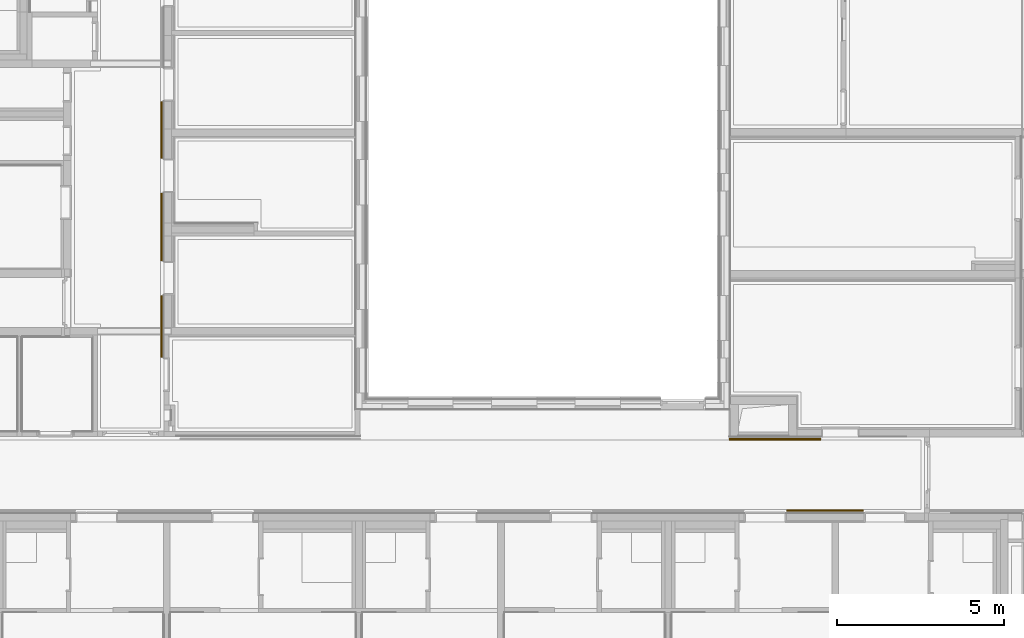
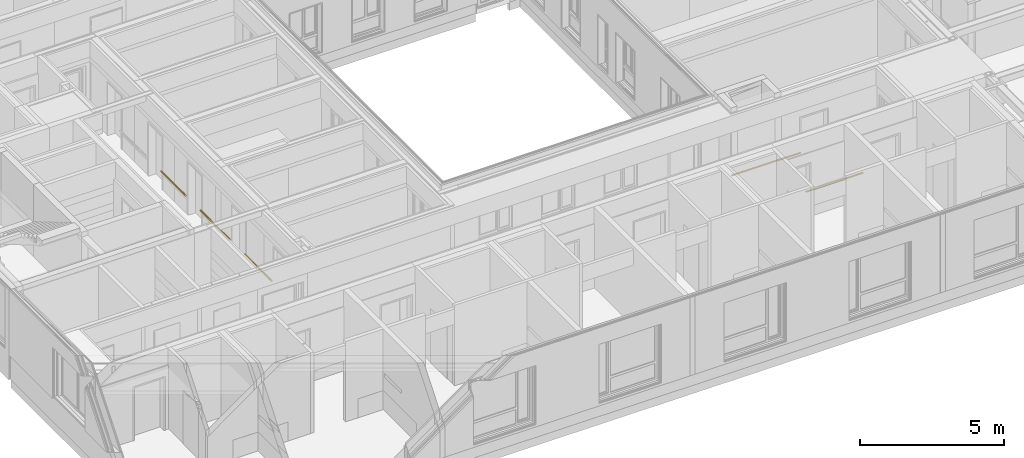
# One storey, part 193 of 207: 5 railings, 5 elements without a shape of their own.
"""IFC4 building model written with IfcOpenShell, lengths in metres."""

import ifcopenshell
import ifcopenshell.guid

model = None  # the IFC model being written
_history = None  # IfcOwnerHistory: only IFC2X3 demands one
_inside = {}  # id of a spatial element -> (the spatial element, [elements in it])
_under = {}  # id of a project, library or spatial element -> (it, [spatial elements below it])
_declared = {}  # id of a project -> (the project, [libraries it declares])
_typed = {}  # id of a type object -> (the type object, [elements of that type])
_made_of = {}  # id of a material, layer set ... -> (it, [elements and type objects made of it])


def new_model(schema):
    """Start an empty IFC model of exactly this schema.

    Asked for "IFC4X3", IfcOpenShell would pick the latest addendum, in which some entities
    have other attributes; the version numbers below select the first issue.
    IFC2X3 requires an IfcOwnerHistory on every rooted entity: one is made here for all.
    """
    global model, _history
    if schema == "IFC4X3":
        model = ifcopenshell.file(schema_version=(4, 3, 0, 0))
    else:
        model = ifcopenshell.file(schema=schema)
    _inside.clear()
    _under.clear()
    _declared.clear()
    _typed.clear()
    _made_of.clear()
    _history = None
    if model.schema == "IFC2X3":
        org = make("IfcOrganization", Name="unknown")
        user = make(
            "IfcPersonAndOrganization",
            ThePerson=make("IfcPerson", FamilyName="unknown"),
            TheOrganization=org,
        )
        app = make(
            "IfcApplication",
            ApplicationDeveloper=org,
            Version="unknown",
            ApplicationFullName="unknown",
            ApplicationIdentifier="unknown",
        )
        _history = make(
            "IfcOwnerHistory",
            OwningUser=user,
            OwningApplication=app,
            ChangeAction="ADDED",
            CreationDate=0,
        )
    return model


def make(cls, **values):
    """One entity of the class cls with the attributes given. An attribute that is None is left unset."""
    return model.create_entity(
        cls, **{name: value for name, value in values.items() if value is not None}
    )


def entity(cls, *values):
    """Any entity or typed value of the class cls, its attributes in the order of the schema. None: left unset."""
    e = model.create_entity(cls)
    for i, value in enumerate(values):
        if value is not None:
            e[i] = value
    return e


def rooted(cls, **values):
    """An entity with a GlobalId (a new one), such as an element, a storey or a relation."""
    return make(cls, GlobalId=ifcopenshell.guid.new(), OwnerHistory=_history, **values)


def si_unit(unit_type, name, prefix=None):
    """IfcSIUnit, for example si_unit("LENGTHUNIT", "METRE", prefix="MILLI")."""
    return make("IfcSIUnit", UnitType=unit_type, Prefix=prefix, Name=name)


def converted_unit(unit_type, name, factor, base, dimensions=None, offset=None):
    """IfcConversionBasedUnit, such as the inch: factor (a typed value) times the base unit."""
    return make(
        "IfcConversionBasedUnit"
        if offset is None
        else "IfcConversionBasedUnitWithOffset",
        ConversionOffset=offset,
        Dimensions=None
        if dimensions is None
        else entity("IfcDimensionalExponents", *dimensions),
        UnitType=unit_type,
        Name=name,
        ConversionFactor=make(
            "IfcMeasureWithUnit", ValueComponent=factor, UnitComponent=base
        ),
    )


def derived_unit(unit_type, elements):
    """IfcDerivedUnit: a product of units, each with its exponent."""
    return make(
        "IfcDerivedUnit",
        Elements=[
            make("IfcDerivedUnitElement", Unit=unit, Exponent=power)
            for unit, power in elements
        ],
        UnitType=unit_type,
    )


def assignment(units):
    """IfcUnitAssignment: the units of a project."""
    return None if units is None else make("IfcUnitAssignment", Units=units)


def point(xyz):
    """IfcCartesianPoint."""
    return None if xyz is None else make("IfcCartesianPoint", Coordinates=xyz)


def direction(xyz):
    """IfcDirection."""
    return None if xyz is None else make("IfcDirection", DirectionRatios=xyz)


def frame(location, z_axis=None, x_axis=None):
    """IfcAxis2Placement3D, a coordinate frame: its origin and axes. An axis left out is left unset."""
    return make(
        "IfcAxis2Placement3D",
        Location=point(location),
        Axis=direction(z_axis),
        RefDirection=direction(x_axis),
    )


def origin():
    """The frame at (0, 0, 0) with its axes left unset."""
    return frame((0.0, 0.0, 0.0))


def place(relative_to, where):
    """IfcLocalPlacement: puts the frame where relative to a parent placement (None: the world)."""
    return make(
        "IfcLocalPlacement", PlacementRelTo=relative_to, RelativePlacement=where
    )


def context(
    kind, dimensions, precision=None, world=None, true_north=None, identifier=None
):
    """IfcGeometricRepresentationContext, for example the 3D "Model" context."""
    return make(
        "IfcGeometricRepresentationContext",
        ContextIdentifier=identifier,
        ContextType=kind,
        CoordinateSpaceDimension=dimensions,
        Precision=precision,
        WorldCoordinateSystem=world,
        TrueNorth=true_north,
    )


def subcontext(parent, identifier, kind, view, scale=None):
    """IfcGeometricRepresentationSubContext, for example "Body" below "Model"."""
    return make(
        "IfcGeometricRepresentationSubContext",
        ContextIdentifier=identifier,
        ContextType=kind,
        ParentContext=parent,
        TargetScale=scale,
        TargetView=view,
    )


def project(units=None, contexts=None):
    """IfcProject with its units and contexts."""
    return rooted(
        "IfcProject",
        Name="project",
        RepresentationContexts=contexts,
        UnitsInContext=assignment(units),
    )


def spatial(cls, under=None, at=None, **own):
    """A site, building, storey or space (cls), placed at a placement, below another one or the project."""
    s = rooted(cls, ObjectPlacement=at, **own)
    if under is not None:
        _under.setdefault(under.id(), (under, []))[1].append(s)
    return s


def faces_of(points, faces, orient=None, outer=None):
    """IfcFace entities. A face is a list of loops; a loop is a list of indices into points, from 0.

    orient and outer hold one flag for each loop. By default every Orientation is true, the
    first loop of a face is its IfcFaceOuterBound and the others are IfcFaceBound.
    """
    made = []
    for i, loops in enumerate(faces):
        bounds = []
        for j, loop in enumerate(loops):
            is_outer = j == 0 if outer is None else outer[i][j]
            bounds.append(
                make(
                    "IfcFaceOuterBound" if is_outer else "IfcFaceBound",
                    Bound=make("IfcPolyLoop", Polygon=[points[k] for k in loop]),
                    Orientation=True if orient is None else orient[i][j],
                )
            )
        made.append(make("IfcFace", Bounds=bounds))
    return made


def faceted_brep(points, faces, orient=None, outer=None, voids=None):
    """IfcFacetedBrep: a solid bounded by flat faces; with voids (closed shells), ...WithVoids."""
    shared = [point(p) for p in points]
    hull = make("IfcClosedShell", CfsFaces=faces_of(shared, faces, orient, outer))
    if voids is None:
        return make("IfcFacetedBrep", Outer=hull)
    return make(
        "IfcFacetedBrepWithVoids",
        Outer=hull,
        Voids=[
            make(cls, CfsFaces=faces_of(shared, fs, o, b)) for cls, fs, o, b in voids
        ],
    )


def shape(context_of_items, identifier, shape_type, items):
    """IfcShapeRepresentation: the items that make up one representation, for example the "Body"."""
    return make(
        "IfcShapeRepresentation",
        ContextOfItems=context_of_items,
        RepresentationIdentifier=identifier,
        RepresentationType=shape_type,
        Items=items,
    )


def material(Name=None, Category=None):
    """IfcMaterial."""
    return make("IfcMaterial", Name=Name, Category=Category)


def made_of(thing, what):
    """Note that an element or type object is made of a material, layer set ...; save() writes the relation."""
    if what is not None:
        _made_of.setdefault(what.id(), (what, []))[1].append(thing)
    return thing


def element(
    cls,
    number,
    at=None,
    inside=None,
    cuts=None,
    type_object=None,
    material=None,
    context=None,
    identifier="Body",
    shape_type=None,
    held_by="IfcProductDefinitionShape",
    body=None,
    shapes=None,
    **own,
):
    """One element of the class cls, such as IfcWall. Its Tag is "e" and its number.

    at: its placement. inside: the storey or other place that contains it. cuts: it is an
    opening in that element (IfcRelVoidsElement). A single representation is given by context,
    identifier, shape_type and body (its items); several are given by shapes. held_by: the class
    of the entity that holds the representations. save() writes the other relations.
    """
    e = rooted(cls, Tag="e%d" % number, ObjectPlacement=at, **own)
    if body is not None:
        shapes = [shape(context, identifier, shape_type, body)]
    if shapes is not None:
        e.Representation = make(held_by, Representations=shapes)
    if inside is not None:
        _inside.setdefault(inside.id(), (inside, []))[1].append(e)
    if cuts is not None:
        rooted(
            "IfcRelVoidsElement", RelatingBuildingElement=cuts, RelatedOpeningElement=e
        )
    if type_object is not None:
        _typed.setdefault(type_object.id(), (type_object, []))[1].append(e)
    return made_of(e, material)


def aggregate(whole, parts):
    """IfcRelAggregates: a whole, such as a stair, and the parts it consists of."""
    return rooted("IfcRelAggregates", RelatingObject=whole, RelatedObjects=parts)


def save(model, path):
    """Write the relations noted so far, then the file.

    IfcRelAggregates (storeys below a building ...), IfcRelContainedInSpatialStructure (elements
    in a storey), IfcRelDefinesByType, IfcRelAssociatesMaterial and IfcRelDeclares: one each for
    every whole, place, type object, material and project.
    """
    for whole, parts in _under.values():
        aggregate(whole, parts)
    for where, things in _inside.values():
        rooted(
            "IfcRelContainedInSpatialStructure",
            RelatedElements=things,
            RelatingStructure=where,
        )
    for kind, things in _typed.values():
        rooted("IfcRelDefinesByType", RelatedObjects=things, RelatingType=kind)
    for what, things in _made_of.values():
        rooted("IfcRelAssociatesMaterial", RelatedObjects=things, RelatingMaterial=what)
    for by, libraries in _declared.values():
        rooted("IfcRelDeclares", RelatingContext=by, RelatedDefinitions=libraries)
    model.write(path)


model = new_model("IFC4")

# Units and contexts
model_context = context("Model", 3, precision=1e-05, world=origin())
body_context = subcontext(model_context, "Body", "Model", "MODEL_VIEW")
ifc_project = project(units=[si_unit("LENGTHUNIT", "METRE"), si_unit("AREAUNIT", "SQUARE_METRE"), si_unit("VOLUMEUNIT", "CUBIC_METRE"), si_unit("MASSUNIT", "GRAM", prefix="KILO"), converted_unit("PLANEANGLEUNIT", "DEGREE", entity("IfcPlaneAngleMeasure", 0.0174532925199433), si_unit("PLANEANGLEUNIT", "RADIAN"), dimensions=[0, 0, 0, 0, 0, 0, 0]), derived_unit("THERMALTRANSMITTANCEUNIT", [(si_unit("POWERUNIT", "WATT"), 1), (si_unit("THERMODYNAMICTEMPERATUREUNIT", "KELVIN"), -1), (si_unit("LENGTHUNIT", "METRE"), -2)]), derived_unit("VOLUMETRICFLOWRATEUNIT", [(si_unit("LENGTHUNIT", "METRE"), 3), (converted_unit("TIMEUNIT", "hour", entity("IfcTimeMeasure", 3600.0), si_unit("TIMEUNIT", "SECOND"), dimensions=[0, 0, 1, 0, 0, 0, 0]), -1), (si_unit("LENGTHUNIT", "METRE"), -1)])], contexts=[model_context])

# Site, building, storey
site_placement = place(None, origin())
site = spatial("IfcSite", under=ifc_project, at=site_placement, Name="Psychiatrie Neubau Wunstorf", CompositionType="ELEMENT")
building_placement = place(site_placement, origin())
building = spatial("IfcBuilding", under=site, at=building_placement, Name="Neubau H2 Stationsgebäude", CompositionType="ELEMENT")
storey_placement = place(building_placement, frame((0.0, 0.0, -0.2)))
storey = spatial("IfcBuildingStorey", under=building, at=storey_placement, Name="H2 Ebene 0", CompositionType="ELEMENT", Elevation=-0.2)

# Assembly, railing
assembly_1_placement = place(storey_placement, frame((0.0, 0.0, 0.2)))
assembly_1 = element("IfcElementAssembly", 1, at=assembly_1_placement, inside=storey, Name="Geländer+Abstand", PredefinedType="NOTDEFINED")
ifc_material_1 = material(Name="Holz")
railing_1_placement = place(assembly_1_placement, frame((9.81750002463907, 8.98999989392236, 0.8)))
railing_1 = element("IfcRailing", 2, at=railing_1_placement, material=ifc_material_1, context=body_context, shape_type="Brep", body=[
    faceted_brep([(0.0498968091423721, 1.84600010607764, 0.025), (0.0495185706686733, 1.84600010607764, 0.0293232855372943), (0.0483953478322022, 1.84600010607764, 0.0335152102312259), (0.0465612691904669, 1.84600010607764, 0.0374484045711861), (0.0440720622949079, 1.84600010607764, 0.0410033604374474), (0.0410033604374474, 1.84600010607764, 0.0440720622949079), (0.0374484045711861, 1.84600010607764, 0.0465612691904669), (0.0335152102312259, 1.84600010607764, 0.0483953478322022), (0.0293232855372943, 1.84600010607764, 0.0495185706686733), (0.025, 1.84600010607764, 0.0498968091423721), (0.0206767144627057, 1.84600010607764, 0.0495185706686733), (0.0164847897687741, 1.84600010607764, 0.0483953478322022), (0.0125515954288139, 1.84600010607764, 0.0465612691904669), (0.00899663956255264, 1.84600010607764, 0.0440720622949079), (0.00592793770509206, 1.84600010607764, 0.0410033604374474), (0.00343873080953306, 1.84600010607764, 0.0374484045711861), (0.00160465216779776, 1.84600010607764, 0.0335152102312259), (0.000481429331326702, 1.84600010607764, 0.0293232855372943), (0.000103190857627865, 1.84600010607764, 0.025), (0.000481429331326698, 1.84600010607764, 0.0206767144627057), (0.00160465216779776, 1.84600010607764, 0.0164847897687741), (0.00343873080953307, 1.84600010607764, 0.0125515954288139), (0.00592793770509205, 1.84600010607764, 0.00899663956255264), (0.00899663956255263, 1.84600010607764, 0.00592793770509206), (0.0125515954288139, 1.84600010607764, 0.00343873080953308), (0.0164847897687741, 1.84600010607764, 0.00160465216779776), (0.0206767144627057, 1.84600010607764, 0.000481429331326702), (0.025, 1.84600010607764, 0.000103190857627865), (0.0293232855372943, 1.84600010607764, 0.000481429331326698), (0.0335152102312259, 1.84600010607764, 0.00160465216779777), (0.0374484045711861, 1.84600010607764, 0.00343873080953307), (0.0410033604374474, 1.84600010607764, 0.00592793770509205), (0.0440720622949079, 1.84600010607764, 0.00899663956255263), (0.0465612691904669, 1.84600010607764, 0.0125515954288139), (0.0483953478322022, 1.84600010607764, 0.0164847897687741), (0.0495185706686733, 1.84600010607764, 0.0206767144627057), (0.0498968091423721, 0.0, 0.025), (0.0495185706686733, 0.0, 0.0206767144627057), (0.0483953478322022, 0.0, 0.0164847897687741), (0.0465612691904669, 0.0, 0.0125515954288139), (0.0440720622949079, 0.0, 0.00899663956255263), (0.0410033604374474, 0.0, 0.00592793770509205), (0.0374484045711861, 0.0, 0.00343873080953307), (0.0335152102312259, 0.0, 0.00160465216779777), (0.0293232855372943, 0.0, 0.000481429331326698), (0.025, 0.0, 0.000103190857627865), (0.0206767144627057, 0.0, 0.000481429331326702), (0.0164847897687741, 0.0, 0.00160465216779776), (0.0125515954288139, 0.0, 0.00343873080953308), (0.00899663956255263, 0.0, 0.00592793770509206), (0.00592793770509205, 0.0, 0.00899663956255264), (0.00343873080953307, 0.0, 0.0125515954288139), (0.00160465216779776, 0.0, 0.0164847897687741), (0.000481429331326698, 0.0, 0.0206767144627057), (0.000103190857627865, 0.0, 0.025), (0.000481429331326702, 0.0, 0.0293232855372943), (0.00160465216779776, 0.0, 0.0335152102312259), (0.00343873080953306, 0.0, 0.0374484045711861), (0.00592793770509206, 0.0, 0.0410033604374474), (0.00899663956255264, 0.0, 0.0440720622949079), (0.0125515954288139, 0.0, 0.0465612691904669), (0.0164847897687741, 0.0, 0.0483953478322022), (0.0206767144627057, 0.0, 0.0495185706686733), (0.025, 0.0, 0.0498968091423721), (0.0293232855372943, 0.0, 0.0495185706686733), (0.0335152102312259, 0.0, 0.0483953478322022), (0.0374484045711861, 0.0, 0.0465612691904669), (0.0410033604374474, 0.0, 0.0440720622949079), (0.0440720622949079, 0.0, 0.0410033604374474), (0.0465612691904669, 0.0, 0.0374484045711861), (0.0483953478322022, 0.0, 0.0335152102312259), (0.0495185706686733, 0.0, 0.0293232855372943)], [[[0, 1, 2, 3, 4, 5, 6, 7, 8, 9, 10, 11, 12, 13, 14, 15, 16, 17, 18, 19, 20, 21, 22, 23, 24, 25, 26, 27, 28, 29, 30, 31, 32, 33, 34, 35]], [[36, 37, 38, 39, 40, 41, 42, 43, 44, 45, 46, 47, 48, 49, 50, 51, 52, 53, 54, 55, 56, 57, 58, 59, 60, 61, 62, 63, 64, 65, 66, 67, 68, 69, 70, 71]], [[1, 0, 36, 71]], [[2, 1, 71, 70]], [[3, 2, 70, 69]], [[4, 3, 69, 68]], [[5, 4, 68, 67]], [[6, 5, 67, 66]], [[7, 6, 66, 65]], [[8, 7, 65, 64]], [[9, 8, 64, 63]], [[10, 9, 63, 62]], [[11, 10, 62, 61]], [[12, 11, 61, 60]], [[13, 12, 60, 59]], [[14, 13, 59, 58]], [[15, 14, 58, 57]], [[16, 15, 57, 56]], [[17, 16, 56, 55]], [[18, 17, 55, 54]], [[19, 18, 54, 53]], [[20, 19, 53, 52]], [[21, 20, 52, 51]], [[22, 21, 51, 50]], [[23, 22, 50, 49]], [[24, 23, 49, 48]], [[25, 24, 48, 47]], [[26, 25, 47, 46]], [[27, 26, 46, 45]], [[28, 27, 45, 44]], [[29, 28, 44, 43]], [[30, 29, 43, 42]], [[31, 30, 42, 41]], [[32, 31, 41, 40]], [[33, 32, 40, 39]], [[34, 33, 39, 38]], [[35, 34, 38, 37]], [[0, 35, 37, 36]]], orient=[[False], [False], [False], [False], [False], [False], [False], [False], [False], [False], [False], [False], [False], [False], [False], [False], [False], [False], [False], [False], [False], [False], [False], [False], [False], [False], [False], [False], [False], [False], [False], [False], [False], [False], [False], [False], [False], [False]]),
])
aggregate(assembly_1, [railing_1])

assembly_2_placement = place(storey_placement, frame((0.0, 0.0, 0.2)))
assembly_2 = element("IfcElementAssembly", 3, at=assembly_2_placement, inside=storey, Name="Geländer+Abstand", PredefinedType="NOTDEFINED")
ifc_material_2 = material(Name="Holz")
railing_2_placement = place(assembly_2_placement, frame((9.81750002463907, 11.876, 0.8)))
railing_2 = element("IfcRailing", 4, at=railing_2_placement, material=ifc_material_2, context=body_context, shape_type="Brep", body=[
    faceted_brep([(0.025, 2.02399989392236, 0.000103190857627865), (0.0293232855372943, 2.02399989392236, 0.000481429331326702), (0.0335152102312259, 2.02399989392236, 0.00160465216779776), (0.0374484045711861, 2.02399989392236, 0.00343873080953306), (0.0410033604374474, 2.02399989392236, 0.00592793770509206), (0.0440720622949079, 2.02399989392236, 0.00899663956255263), (0.0465612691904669, 2.02399989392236, 0.0125515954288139), (0.0483953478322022, 2.02399989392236, 0.0164847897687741), (0.0495185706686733, 2.02399989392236, 0.0206767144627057), (0.0498968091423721, 2.02399989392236, 0.025), (0.0495185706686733, 2.02399989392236, 0.0293232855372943), (0.0483953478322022, 2.02399989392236, 0.0335152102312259), (0.0465612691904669, 2.02399989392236, 0.0374484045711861), (0.0440720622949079, 2.02399989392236, 0.0410033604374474), (0.0410033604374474, 2.02399989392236, 0.0440720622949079), (0.0374484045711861, 2.02399989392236, 0.0465612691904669), (0.0335152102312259, 2.02399989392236, 0.0483953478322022), (0.0293232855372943, 2.02399989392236, 0.0495185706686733), (0.025, 2.02399989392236, 0.0498968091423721), (0.0206767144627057, 2.02399989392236, 0.0495185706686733), (0.0164847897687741, 2.02399989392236, 0.0483953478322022), (0.0125515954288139, 2.02399989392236, 0.0465612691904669), (0.00899663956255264, 2.02399989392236, 0.044072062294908), (0.00592793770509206, 2.02399989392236, 0.0410033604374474), (0.00343873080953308, 2.02399989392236, 0.0374484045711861), (0.00160465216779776, 2.02399989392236, 0.0335152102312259), (0.000481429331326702, 2.02399989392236, 0.0293232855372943), (0.000103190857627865, 2.02399989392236, 0.025), (0.000481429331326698, 2.02399989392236, 0.0206767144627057), (0.00160465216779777, 2.02399989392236, 0.0164847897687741), (0.00343873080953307, 2.02399989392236, 0.0125515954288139), (0.00592793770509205, 2.02399989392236, 0.00899663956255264), (0.00899663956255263, 2.02399989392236, 0.00592793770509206), (0.0125515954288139, 2.02399989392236, 0.00343873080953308), (0.0164847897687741, 2.02399989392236, 0.00160465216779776), (0.0206767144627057, 2.02399989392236, 0.000481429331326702), (0.025, 0.0, 0.000103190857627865), (0.0206767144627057, 0.0, 0.000481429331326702), (0.0164847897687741, 0.0, 0.00160465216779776), (0.0125515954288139, 0.0, 0.00343873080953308), (0.00899663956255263, 0.0, 0.00592793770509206), (0.00592793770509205, 0.0, 0.00899663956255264), (0.00343873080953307, 0.0, 0.0125515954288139), (0.00160465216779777, 0.0, 0.0164847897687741), (0.000481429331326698, 0.0, 0.0206767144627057), (0.000103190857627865, 0.0, 0.025), (0.000481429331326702, 0.0, 0.0293232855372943), (0.00160465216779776, 0.0, 0.0335152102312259), (0.00343873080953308, 0.0, 0.0374484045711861), (0.00592793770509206, 0.0, 0.0410033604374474), (0.00899663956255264, 0.0, 0.044072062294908), (0.0125515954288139, 0.0, 0.0465612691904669), (0.0164847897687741, 0.0, 0.0483953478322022), (0.0206767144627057, 0.0, 0.0495185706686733), (0.025, 0.0, 0.0498968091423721), (0.0293232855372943, 0.0, 0.0495185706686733), (0.0335152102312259, 0.0, 0.0483953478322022), (0.0374484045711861, 0.0, 0.0465612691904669), (0.0410033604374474, 0.0, 0.0440720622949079), (0.0440720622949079, 0.0, 0.0410033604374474), (0.0465612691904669, 0.0, 0.0374484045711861), (0.0483953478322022, 0.0, 0.0335152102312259), (0.0495185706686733, 0.0, 0.0293232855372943), (0.0498968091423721, 0.0, 0.025), (0.0495185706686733, 0.0, 0.0206767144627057), (0.0483953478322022, 0.0, 0.0164847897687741), (0.0465612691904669, 0.0, 0.0125515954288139), (0.0440720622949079, 0.0, 0.00899663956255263), (0.0410033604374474, 0.0, 0.00592793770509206), (0.0374484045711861, 0.0, 0.00343873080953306), (0.0335152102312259, 0.0, 0.00160465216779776), (0.0293232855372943, 0.0, 0.000481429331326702)], [[[0, 1, 2, 3, 4, 5, 6, 7, 8, 9, 10, 11, 12, 13, 14, 15, 16, 17, 18, 19, 20, 21, 22, 23, 24, 25, 26, 27, 28, 29, 30, 31, 32, 33, 34, 35]], [[36, 37, 38, 39, 40, 41, 42, 43, 44, 45, 46, 47, 48, 49, 50, 51, 52, 53, 54, 55, 56, 57, 58, 59, 60, 61, 62, 63, 64, 65, 66, 67, 68, 69, 70, 71]], [[1, 0, 36, 71]], [[2, 1, 71, 70]], [[3, 2, 70, 69]], [[4, 3, 69, 68]], [[5, 4, 68, 67]], [[6, 5, 67, 66]], [[7, 6, 66, 65]], [[8, 7, 65, 64]], [[9, 8, 64, 63]], [[10, 9, 63, 62]], [[11, 10, 62, 61]], [[12, 11, 61, 60]], [[13, 12, 60, 59]], [[14, 13, 59, 58]], [[15, 14, 58, 57]], [[16, 15, 57, 56]], [[17, 16, 56, 55]], [[18, 17, 55, 54]], [[19, 18, 54, 53]], [[20, 19, 53, 52]], [[21, 20, 52, 51]], [[22, 21, 51, 50]], [[23, 22, 50, 49]], [[24, 23, 49, 48]], [[25, 24, 48, 47]], [[26, 25, 47, 46]], [[27, 26, 46, 45]], [[28, 27, 45, 44]], [[29, 28, 44, 43]], [[30, 29, 43, 42]], [[31, 30, 42, 41]], [[32, 31, 41, 40]], [[33, 32, 40, 39]], [[34, 33, 39, 38]], [[35, 34, 38, 37]], [[0, 35, 37, 36]]], orient=[[False], [False], [False], [False], [False], [False], [False], [False], [False], [False], [False], [False], [False], [False], [False], [False], [False], [False], [False], [False], [False], [False], [False], [False], [False], [False], [False], [False], [False], [False], [False], [False], [False], [False], [False], [False], [False], [False]]),
])
aggregate(assembly_2, [railing_2])

assembly_3_placement = place(storey_placement, frame((0.0, 0.0, 0.2)))
assembly_3 = element("IfcElementAssembly", 5, at=assembly_3_placement, inside=storey, Name="Geländer+Abstand", PredefinedType="NOTDEFINED")
ifc_material_3 = material(Name="Holz")
railing_3_placement = place(assembly_3_placement, frame((9.81750002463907, 14.9399998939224, 0.8)))
railing_3 = element("IfcRailing", 6, at=railing_3_placement, material=ifc_material_3, context=body_context, shape_type="Brep", body=[
    faceted_brep([(0.025, 1.68901332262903, 0.000103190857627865), (0.0293232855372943, 1.68901332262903, 0.000481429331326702), (0.0335152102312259, 1.68901332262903, 0.00160465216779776), (0.0374484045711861, 1.68901332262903, 0.00343873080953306), (0.0410033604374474, 1.68901332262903, 0.00592793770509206), (0.0440720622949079, 1.68901332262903, 0.00899663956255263), (0.0465612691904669, 1.68901332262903, 0.0125515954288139), (0.0483953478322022, 1.68901332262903, 0.0164847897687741), (0.0495185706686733, 1.68901332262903, 0.0206767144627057), (0.0498968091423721, 1.68901332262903, 0.025), (0.0495185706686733, 1.68901332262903, 0.0293232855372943), (0.0483953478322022, 1.68901332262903, 0.0335152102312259), (0.0465612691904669, 1.68901332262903, 0.0374484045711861), (0.0440720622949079, 1.68901332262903, 0.0410033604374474), (0.0410033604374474, 1.68901332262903, 0.0440720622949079), (0.0374484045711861, 1.68901332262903, 0.0465612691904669), (0.0335152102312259, 1.68901332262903, 0.0483953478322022), (0.0293232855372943, 1.68901332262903, 0.0495185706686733), (0.025, 1.68901332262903, 0.0498968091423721), (0.0206767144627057, 1.68901332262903, 0.0495185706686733), (0.0164847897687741, 1.68901332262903, 0.0483953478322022), (0.0125515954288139, 1.68901332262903, 0.0465612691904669), (0.00899663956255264, 1.68901332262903, 0.044072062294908), (0.00592793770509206, 1.68901332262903, 0.0410033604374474), (0.00343873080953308, 1.68901332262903, 0.0374484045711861), (0.00160465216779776, 1.68901332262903, 0.0335152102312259), (0.000481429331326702, 1.68901332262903, 0.0293232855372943), (0.000103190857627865, 1.68901332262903, 0.025), (0.000481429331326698, 1.68901332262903, 0.0206767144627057), (0.00160465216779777, 1.68901332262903, 0.0164847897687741), (0.00343873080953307, 1.68901332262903, 0.0125515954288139), (0.00592793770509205, 1.68901332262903, 0.00899663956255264), (0.00899663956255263, 1.68901332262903, 0.00592793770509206), (0.0125515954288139, 1.68901332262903, 0.00343873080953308), (0.0164847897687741, 1.68901332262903, 0.00160465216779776), (0.0206767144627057, 1.68901332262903, 0.000481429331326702), (0.025, 0.0, 0.000103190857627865), (0.0206767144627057, 0.0, 0.000481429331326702), (0.0164847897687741, 0.0, 0.00160465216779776), (0.0125515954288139, 0.0, 0.00343873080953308), (0.00899663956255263, 0.0, 0.00592793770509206), (0.00592793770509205, 0.0, 0.00899663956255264), (0.00343873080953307, 0.0, 0.0125515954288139), (0.00160465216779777, 0.0, 0.0164847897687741), (0.000481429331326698, 0.0, 0.0206767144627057), (0.000103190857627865, 0.0, 0.025), (0.000481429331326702, 0.0, 0.0293232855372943), (0.00160465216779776, 0.0, 0.0335152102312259), (0.00343873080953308, 0.0, 0.0374484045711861), (0.00592793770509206, 0.0, 0.0410033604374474), (0.00899663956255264, 0.0, 0.044072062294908), (0.0125515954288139, 0.0, 0.0465612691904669), (0.0164847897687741, 0.0, 0.0483953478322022), (0.0206767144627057, 0.0, 0.0495185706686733), (0.025, 0.0, 0.0498968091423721), (0.0293232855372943, 0.0, 0.0495185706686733), (0.0335152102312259, 0.0, 0.0483953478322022), (0.0374484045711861, 0.0, 0.0465612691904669), (0.0410033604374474, 0.0, 0.0440720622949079), (0.0440720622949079, 0.0, 0.0410033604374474), (0.0465612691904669, 0.0, 0.0374484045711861), (0.0483953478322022, 0.0, 0.0335152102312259), (0.0495185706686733, 0.0, 0.0293232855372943), (0.0498968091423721, 0.0, 0.025), (0.0495185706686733, 0.0, 0.0206767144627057), (0.0483953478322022, 0.0, 0.0164847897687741), (0.0465612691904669, 0.0, 0.0125515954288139), (0.0440720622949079, 0.0, 0.00899663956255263), (0.0410033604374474, 0.0, 0.00592793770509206), (0.0374484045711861, 0.0, 0.00343873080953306), (0.0335152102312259, 0.0, 0.00160465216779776), (0.0293232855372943, 0.0, 0.000481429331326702)], [[[0, 1, 2, 3, 4, 5, 6, 7, 8, 9, 10, 11, 12, 13, 14, 15, 16, 17, 18, 19, 20, 21, 22, 23, 24, 25, 26, 27, 28, 29, 30, 31, 32, 33, 34, 35]], [[36, 37, 38, 39, 40, 41, 42, 43, 44, 45, 46, 47, 48, 49, 50, 51, 52, 53, 54, 55, 56, 57, 58, 59, 60, 61, 62, 63, 64, 65, 66, 67, 68, 69, 70, 71]], [[1, 0, 36, 71]], [[2, 1, 71, 70]], [[3, 2, 70, 69]], [[4, 3, 69, 68]], [[5, 4, 68, 67]], [[6, 5, 67, 66]], [[7, 6, 66, 65]], [[8, 7, 65, 64]], [[9, 8, 64, 63]], [[10, 9, 63, 62]], [[11, 10, 62, 61]], [[12, 11, 61, 60]], [[13, 12, 60, 59]], [[14, 13, 59, 58]], [[15, 14, 58, 57]], [[16, 15, 57, 56]], [[17, 16, 56, 55]], [[18, 17, 55, 54]], [[19, 18, 54, 53]], [[20, 19, 53, 52]], [[21, 20, 52, 51]], [[22, 21, 51, 50]], [[23, 22, 50, 49]], [[24, 23, 49, 48]], [[25, 24, 48, 47]], [[26, 25, 47, 46]], [[27, 26, 46, 45]], [[28, 27, 45, 44]], [[29, 28, 44, 43]], [[30, 29, 43, 42]], [[31, 30, 42, 41]], [[32, 31, 41, 40]], [[33, 32, 40, 39]], [[34, 33, 39, 38]], [[35, 34, 38, 37]], [[0, 35, 37, 36]]], orient=[[False], [False], [False], [False], [False], [False], [False], [False], [False], [False], [False], [False], [False], [False], [False], [False], [False], [False], [False], [False], [False], [False], [False], [False], [False], [False], [False], [False], [False], [False], [False], [False], [False], [False], [False], [False], [False], [False]]),
])
aggregate(assembly_3, [railing_3])

assembly_4_placement = place(storey_placement, frame((0.0, 0.0, 0.2)))
assembly_4 = element("IfcElementAssembly", 7, at=assembly_4_placement, inside=storey, Name="Geländer+Abstand", PredefinedType="NOTDEFINED")
ifc_material_4 = material(Name="Holz")
railing_4_placement = place(assembly_4_placement, frame((28.55, 4.38074963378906, 0.8)))
railing_4 = element("IfcRailing", 8, at=railing_4_placement, material=ifc_material_4, context=body_context, shape_type="Brep", body=[
    faceted_brep([(2.29, 0.000103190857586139, 0.025), (2.29, 0.000481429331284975, 0.0293232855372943), (2.29, 0.00160465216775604, 0.0335152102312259), (2.29, 0.00343873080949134, 0.0374484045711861), (2.29, 0.00592793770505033, 0.0410033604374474), (2.29, 0.00899663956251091, 0.0440720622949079), (2.29, 0.0125515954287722, 0.0465612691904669), (2.29, 0.0164847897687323, 0.0483953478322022), (2.29, 0.020676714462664, 0.0495185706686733), (2.29, 0.0249999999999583, 0.0498968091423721), (2.29, 0.0293232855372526, 0.0495185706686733), (2.29, 0.0335152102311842, 0.0483953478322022), (2.29, 0.0374484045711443, 0.0465612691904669), (2.29, 0.0410033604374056, 0.0440720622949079), (2.29, 0.0440720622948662, 0.0410033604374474), (2.29, 0.0465612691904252, 0.0374484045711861), (2.29, 0.0483953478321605, 0.0335152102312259), (2.29, 0.0495185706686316, 0.0293232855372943), (2.29, 0.0498968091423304, 0.025), (2.29, 0.0495185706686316, 0.0206767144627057), (2.29, 0.0483953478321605, 0.0164847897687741), (2.29, 0.0465612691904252, 0.0125515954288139), (2.29, 0.0440720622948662, 0.00899663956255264), (2.29, 0.0410033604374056, 0.00592793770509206), (2.29, 0.0374484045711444, 0.00343873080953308), (2.29, 0.0335152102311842, 0.00160465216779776), (2.29, 0.0293232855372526, 0.000481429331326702), (2.29, 0.0249999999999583, 0.000103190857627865), (2.29, 0.020676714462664, 0.000481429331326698), (2.29, 0.0164847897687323, 0.00160465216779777), (2.29, 0.0125515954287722, 0.00343873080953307), (2.29, 0.00899663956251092, 0.00592793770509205), (2.29, 0.00592793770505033, 0.00899663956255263), (2.29, 0.00343873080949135, 0.0125515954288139), (2.29, 0.00160465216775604, 0.0164847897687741), (2.29, 0.000481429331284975, 0.0206767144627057), (0.0, 0.000103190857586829, 0.025), (0.0, 0.000481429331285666, 0.0206767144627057), (0.0, 0.00160465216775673, 0.0164847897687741), (0.0, 0.00343873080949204, 0.0125515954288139), (0.0, 0.00592793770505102, 0.00899663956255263), (0.0, 0.00899663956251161, 0.00592793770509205), (0.0, 0.0125515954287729, 0.00343873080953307), (0.0, 0.016484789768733, 0.00160465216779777), (0.0, 0.0206767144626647, 0.000481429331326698), (0.0, 0.024999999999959, 0.000103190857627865), (0.0, 0.0293232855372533, 0.000481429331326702), (0.0, 0.0335152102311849, 0.00160465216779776), (0.0, 0.037448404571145, 0.00343873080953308), (0.0, 0.0410033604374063, 0.00592793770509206), (0.0, 0.0440720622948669, 0.00899663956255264), (0.0, 0.0465612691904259, 0.0125515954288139), (0.0, 0.0483953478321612, 0.0164847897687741), (0.0, 0.0495185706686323, 0.0206767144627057), (0.0, 0.0498968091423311, 0.025), (0.0, 0.0495185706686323, 0.0293232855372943), (0.0, 0.0483953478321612, 0.0335152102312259), (0.0, 0.0465612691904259, 0.0374484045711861), (0.0, 0.0440720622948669, 0.0410033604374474), (0.0, 0.0410033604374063, 0.0440720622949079), (0.0, 0.037448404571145, 0.0465612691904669), (0.0, 0.0335152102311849, 0.0483953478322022), (0.0, 0.0293232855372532, 0.0495185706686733), (0.0, 0.024999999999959, 0.0498968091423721), (0.0, 0.0206767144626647, 0.0495185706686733), (0.0, 0.016484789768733, 0.0483953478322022), (0.0, 0.0125515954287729, 0.0465612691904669), (0.0, 0.0089966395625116, 0.0440720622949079), (0.0, 0.00592793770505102, 0.0410033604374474), (0.0, 0.00343873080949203, 0.0374484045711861), (0.0, 0.00160465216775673, 0.0335152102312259), (0.0, 0.000481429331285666, 0.0293232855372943)], [[[0, 1, 2, 3, 4, 5, 6, 7, 8, 9, 10, 11, 12, 13, 14, 15, 16, 17, 18, 19, 20, 21, 22, 23, 24, 25, 26, 27, 28, 29, 30, 31, 32, 33, 34, 35]], [[36, 37, 38, 39, 40, 41, 42, 43, 44, 45, 46, 47, 48, 49, 50, 51, 52, 53, 54, 55, 56, 57, 58, 59, 60, 61, 62, 63, 64, 65, 66, 67, 68, 69, 70, 71]], [[1, 0, 36, 71]], [[2, 1, 71, 70]], [[3, 2, 70, 69]], [[4, 3, 69, 68]], [[5, 4, 68, 67]], [[6, 5, 67, 66]], [[7, 6, 66, 65]], [[8, 7, 65, 64]], [[9, 8, 64, 63]], [[10, 9, 63, 62]], [[11, 10, 62, 61]], [[12, 11, 61, 60]], [[13, 12, 60, 59]], [[14, 13, 59, 58]], [[15, 14, 58, 57]], [[16, 15, 57, 56]], [[17, 16, 56, 55]], [[18, 17, 55, 54]], [[19, 18, 54, 53]], [[20, 19, 53, 52]], [[21, 20, 52, 51]], [[22, 21, 51, 50]], [[23, 22, 50, 49]], [[24, 23, 49, 48]], [[25, 24, 48, 47]], [[26, 25, 47, 46]], [[27, 26, 46, 45]], [[28, 27, 45, 44]], [[29, 28, 44, 43]], [[30, 29, 43, 42]], [[31, 30, 42, 41]], [[32, 31, 41, 40]], [[33, 32, 40, 39]], [[34, 33, 39, 38]], [[35, 34, 38, 37]], [[0, 35, 37, 36]]], orient=[[False], [False], [False], [False], [False], [False], [False], [False], [False], [False], [False], [False], [False], [False], [False], [False], [False], [False], [False], [False], [False], [False], [False], [False], [False], [False], [False], [False], [False], [False], [False], [False], [False], [False], [False], [False], [False], [False]]),
])
aggregate(assembly_4, [railing_4])

assembly_5_placement = place(storey_placement, frame((0.0, 0.0, 0.2)))
assembly_5 = element("IfcElementAssembly", 9, at=assembly_5_placement, inside=storey, Name="Geländer+Abstand", PredefinedType="NOTDEFINED")
ifc_material_5 = material(Name="Holz")
railing_5_placement = place(assembly_5_placement, frame((26.8200003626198, 6.512, 0.8)))
railing_5 = element("IfcRailing", 10, at=railing_5_placement, material=ifc_material_5, context=body_context, shape_type="Brep", body=[
    faceted_brep([(0.0, 0.049896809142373, 0.025), (0.0, 0.0495185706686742, 0.0293232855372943), (0.0, 0.0483953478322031, 0.0335152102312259), (0.0, 0.0465612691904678, 0.0374484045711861), (0.0, 0.0440720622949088, 0.0410033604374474), (0.0, 0.0410033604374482, 0.0440720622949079), (0.0, 0.0374484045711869, 0.0465612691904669), (0.0, 0.0335152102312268, 0.0483953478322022), (0.0, 0.0293232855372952, 0.0495185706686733), (0.0, 0.0250000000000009, 0.0498968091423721), (0.0, 0.0206767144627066, 0.0495185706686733), (0.0, 0.0164847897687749, 0.0483953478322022), (0.0, 0.0125515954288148, 0.0465612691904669), (0.0, 0.00899663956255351, 0.0440720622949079), (0.0, 0.00592793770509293, 0.0410033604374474), (0.0, 0.00343873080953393, 0.0374484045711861), (0.0, 0.00160465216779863, 0.0335152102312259), (0.0, 0.000481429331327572, 0.0293232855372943), (0.0, 0.000103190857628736, 0.025), (0.0, 0.000481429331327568, 0.0206767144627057), (0.0, 0.00160465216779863, 0.0164847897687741), (0.0, 0.00343873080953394, 0.0125515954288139), (0.0, 0.00592793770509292, 0.00899663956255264), (0.0, 0.0089966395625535, 0.00592793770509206), (0.0, 0.0125515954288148, 0.00343873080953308), (0.0, 0.0164847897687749, 0.00160465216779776), (0.0, 0.0206767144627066, 0.000481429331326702), (0.0, 0.0250000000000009, 0.000103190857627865), (0.0, 0.0293232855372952, 0.000481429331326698), (0.0, 0.0335152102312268, 0.00160465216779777), (0.0, 0.0374484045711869, 0.00343873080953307), (0.0, 0.0410033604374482, 0.00592793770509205), (0.0, 0.0440720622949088, 0.00899663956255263), (0.0, 0.0465612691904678, 0.0125515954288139), (0.0, 0.0483953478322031, 0.0164847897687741), (0.0, 0.0495185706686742, 0.0206767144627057), (2.74499963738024, 0.0498968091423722, 0.025), (2.74499963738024, 0.0495185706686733, 0.0206767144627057), (2.74499963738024, 0.0483953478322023, 0.0164847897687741), (2.74499963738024, 0.046561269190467, 0.0125515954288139), (2.74499963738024, 0.044072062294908, 0.00899663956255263), (2.74499963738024, 0.0410033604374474, 0.00592793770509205), (2.74499963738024, 0.0374484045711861, 0.00343873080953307), (2.74499963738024, 0.033515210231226, 0.00160465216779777), (2.74499963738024, 0.0293232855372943, 0.000481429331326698), (2.74499963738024, 0.025, 0.000103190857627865), (2.74499963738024, 0.0206767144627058, 0.000481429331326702), (2.74499963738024, 0.0164847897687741, 0.00160465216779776), (2.74499963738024, 0.012551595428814, 0.00343873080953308), (2.74499963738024, 0.00899663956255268, 0.00592793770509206), (2.74499963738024, 0.0059279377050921, 0.00899663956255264), (2.74499963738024, 0.00343873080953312, 0.0125515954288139), (2.74499963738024, 0.0016046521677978, 0.0164847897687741), (2.74499963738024, 0.00048142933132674, 0.0206767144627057), (2.74499963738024, 0.000103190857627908, 0.025), (2.74499963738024, 0.000481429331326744, 0.0293232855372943), (2.74499963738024, 0.00160465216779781, 0.0335152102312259), (2.74499963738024, 0.00343873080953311, 0.0374484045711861), (2.74499963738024, 0.0059279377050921, 0.0410033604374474), (2.74499963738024, 0.00899663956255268, 0.0440720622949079), (2.74499963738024, 0.012551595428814, 0.0465612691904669), (2.74499963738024, 0.0164847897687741, 0.0483953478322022), (2.74499963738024, 0.0206767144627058, 0.0495185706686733), (2.74499963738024, 0.025, 0.0498968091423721), (2.74499963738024, 0.0293232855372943, 0.0495185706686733), (2.74499963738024, 0.033515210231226, 0.0483953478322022), (2.74499963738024, 0.0374484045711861, 0.0465612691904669), (2.74499963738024, 0.0410033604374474, 0.0440720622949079), (2.74499963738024, 0.044072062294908, 0.0410033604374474), (2.74499963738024, 0.046561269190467, 0.0374484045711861), (2.74499963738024, 0.0483953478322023, 0.0335152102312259), (2.74499963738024, 0.0495185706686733, 0.0293232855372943)], [[[0, 1, 2, 3, 4, 5, 6, 7, 8, 9, 10, 11, 12, 13, 14, 15, 16, 17, 18, 19, 20, 21, 22, 23, 24, 25, 26, 27, 28, 29, 30, 31, 32, 33, 34, 35]], [[36, 37, 38, 39, 40, 41, 42, 43, 44, 45, 46, 47, 48, 49, 50, 51, 52, 53, 54, 55, 56, 57, 58, 59, 60, 61, 62, 63, 64, 65, 66, 67, 68, 69, 70, 71]], [[1, 0, 36, 71]], [[2, 1, 71, 70]], [[3, 2, 70, 69]], [[4, 3, 69, 68]], [[5, 4, 68, 67]], [[6, 5, 67, 66]], [[7, 6, 66, 65]], [[8, 7, 65, 64]], [[9, 8, 64, 63]], [[10, 9, 63, 62]], [[11, 10, 62, 61]], [[12, 11, 61, 60]], [[13, 12, 60, 59]], [[14, 13, 59, 58]], [[15, 14, 58, 57]], [[16, 15, 57, 56]], [[17, 16, 56, 55]], [[18, 17, 55, 54]], [[19, 18, 54, 53]], [[20, 19, 53, 52]], [[21, 20, 52, 51]], [[22, 21, 51, 50]], [[23, 22, 50, 49]], [[24, 23, 49, 48]], [[25, 24, 48, 47]], [[26, 25, 47, 46]], [[27, 26, 46, 45]], [[28, 27, 45, 44]], [[29, 28, 44, 43]], [[30, 29, 43, 42]], [[31, 30, 42, 41]], [[32, 31, 41, 40]], [[33, 32, 40, 39]], [[34, 33, 39, 38]], [[35, 34, 38, 37]], [[0, 35, 37, 36]]], orient=[[False], [False], [False], [False], [False], [False], [False], [False], [False], [False], [False], [False], [False], [False], [False], [False], [False], [False], [False], [False], [False], [False], [False], [False], [False], [False], [False], [False], [False], [False], [False], [False], [False], [False], [False], [False], [False], [False]]),
])
aggregate(assembly_5, [railing_5])

save(model, "model.ifc")
